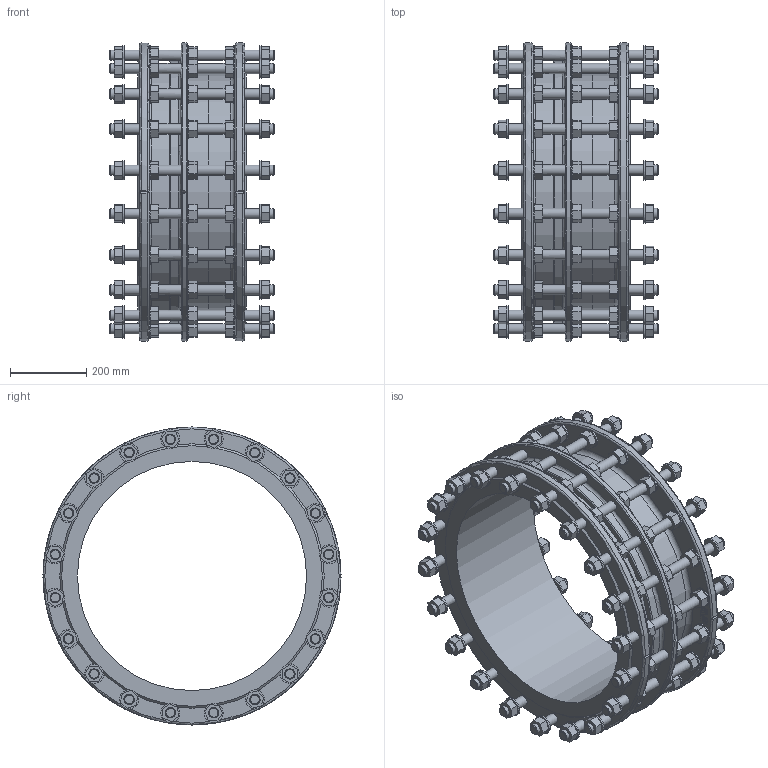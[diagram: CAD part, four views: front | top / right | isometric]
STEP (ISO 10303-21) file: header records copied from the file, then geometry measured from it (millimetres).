
FILE_DESCRIPTION (( 'STEP AP203' ), '1' );
FILE_NAME ('O_265_911_DN600_0XXXXX01_L=285_REV01.step', '2024-12-12T08:13:16', ( '' ), ( '' ), 'SwSTEP 2.0', 'SolidWorks 2022', '' );
FILE_SCHEMA (( 'CONFIG_CONTROL_DESIGN' ));
Length unit declared in the file: millimetre
Products named in the file (1): O_265_911_DN600_0XXXXX01_L=285_REV01
Bounding box: 430 x 779.98 x 780 mm (x, y, z)
Volume: 28381448.4 mm3; surface area: 2933054.4 mm2
Topology: 1 solids, 1 shells, 1287 faces, 3120 edges, 2046 vertices
Faces by surface type: plane 1000, cylinder 232, cone 43, torus 12
Full cylindrical faces by diameter (mm): 27 x120, 50 x100, 600 x1, 618 x2, 656 x1
Entity records: 35824 total; most frequent: CARTESIAN_POINT 6955, DIRECTION 5937, ORIENTED_EDGE 5374, EDGE_CURVE 2687, AXIS2_PLACEMENT_3D 2006, VECTOR 1925, LINE 1925, VERTEX_POINT 1888
